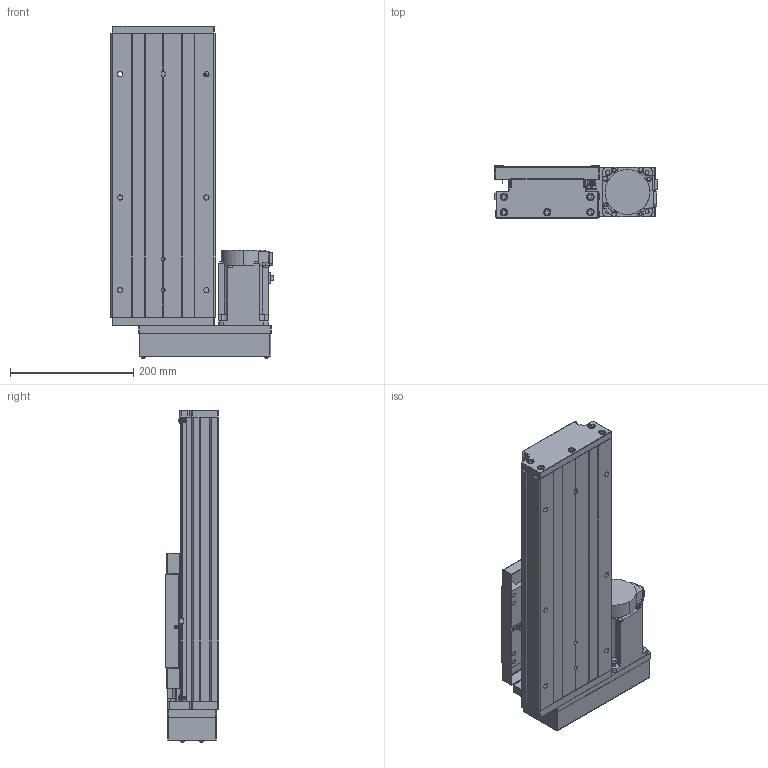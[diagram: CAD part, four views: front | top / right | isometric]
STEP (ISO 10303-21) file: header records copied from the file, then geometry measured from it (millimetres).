
FILE_DESCRIPTION (( 'STEP AP203' ), '1' );
FILE_NAME ('GTH17-200-BR-M75-C4.step', '2023-06-30T13:17:52', ( '微软用户' ), ( '微软中国' ), 'SwSTEP 2.0', 'SolidWorks 2020', '' );
FILE_SCHEMA (( 'CONFIG_CONTROL_DESIGN' ));
Length unit declared in the file: millimetre
Products named in the file (19): GTH17-200-BR-M75-C4; CTHA60-017; GBT 70.2-M3¡Á5_M3¡Á6; EE_SX911P_R; す晦芛蹟隊 M3℅5; GTH17-001_200; CTHA60-016; HG-KN73J-S100; GTH17-002_GTH17-002; GBT 70.1-M3℅5; GBT 70.2-M4¡Á45_M4¡Á35; GTH17-004; GBT77-2000 M3×3; GTH17-015-2_CTHA86-015-2; GTH17-005; GBT 70.1-M6¡Á20_M6¡Á20; GTH17-033; GB1155-6X6; GTH17-031
Assembly tree (58 placements, depth 2):
  GTH17-200-BR-M75-C4
    GTH17-001_200
    GTH17-002_GTH17-002
    GTH17-004
    GTH17-005
    GB1155-6X6  x2
    CTHA60-017  x3
    EE_SX911P_R  x3
    CTHA60-016  x2
    GBT 70.1-M3℅5  x6
    GBT77-2000 M3×3  x6
    GBT 70.1-M6¡Á20_M6¡Á20  x10
    GTH17-031
    GBT 70.2-M3¡Á5_M3¡Á6  x8
    す晦芛蹟隊 M3℅5  x6
    HG-KN73J-S100
    GBT 70.2-M4¡Á45_M4¡Á35  x4
    GTH17-015-2_CTHA86-015-2
    GTH17-033
Bounding box: 264.3 x 87 x 538.2 mm (x, y, z)
Volume: 5016501.2 mm3; surface area: 811699.8 mm2
Topology: 61 solids, 61 shells, 2419 faces, 5773 edges, 3571 vertices
Faces by surface type: plane 1304, cylinder 642, cone 297, torus 124, sphere 32, bspline 20
Entity records: 43814 total; most frequent: CARTESIAN_POINT 10216, DIRECTION 6301, ORIENTED_EDGE 6258, EDGE_CURVE 3129, AXIS2_PLACEMENT_3D 2134, VECTOR 2033, LINE 2033, VERTEX_POINT 1983
